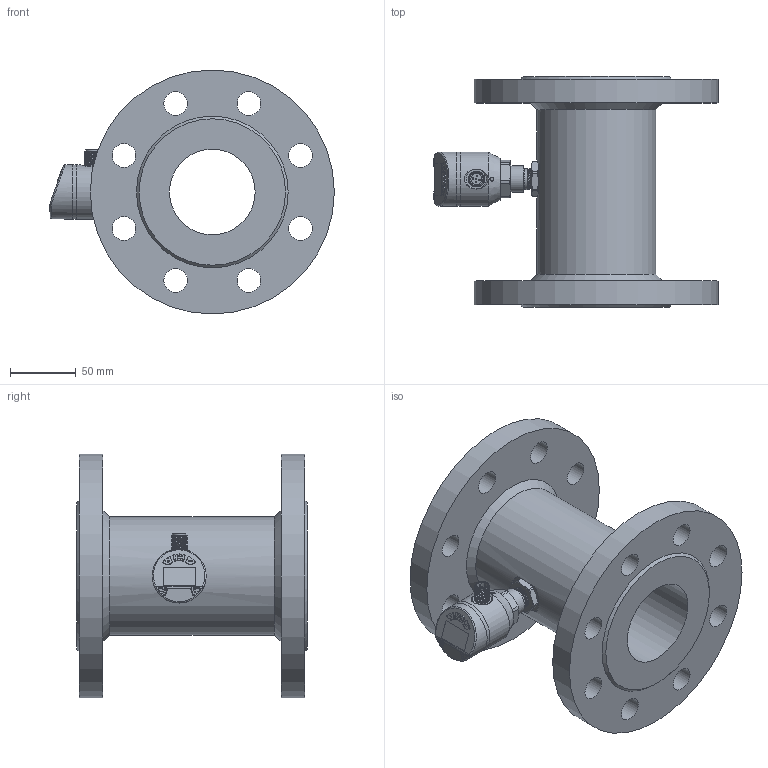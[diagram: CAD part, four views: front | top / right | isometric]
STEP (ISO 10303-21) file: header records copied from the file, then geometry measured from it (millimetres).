
FILE_DESCRIPTION( (''), '2;1');
FILE_NAME( 'QTKA_DN65_flange.step', '2024-08-14T10:03:59+08:00', (''), (''), '', '', '');
FILE_SCHEMA (('AUTOMOTIVE_DESIGN { 1 0 10303 214 3 1 1 1 }'));
Length unit declared in the file: millimetre
Products named in the file (1): QTKA DN65_flange
Bounding box: 215.8 x 175 x 185 mm (x, y, z)
Volume: 1270114 mm3; surface area: 215839.7 mm2
Topology: 6 solids, 7 shells, 447 faces, 1098 edges, 702 vertices
Faces by surface type: cylinder 157, plane 151, cone 50, bspline 44, torus 39, sphere 6
Full cylindrical faces by diameter (mm): 1 x5, 2.7 x4, 8.4 x1, 9.7 x1, 9.8 x1, 10.1 x1, 11.6 x1, 12 x1, 15.9 x1, 16.5 x1, 18 x16, 20 x1, 23 x3, 26 x4, 26.1 x1, 37 x1, 41 x3, 65 x1, 90 x1, 185 x2
Entity records: 29866 total; most frequent: CARTESIAN_POINT 18536, DIRECTION 1994, ORIENTED_EDGE 1942, EDGE_CURVE 971, AXIS2_PLACEMENT_3D 809, VERTEX_POINT 650, EDGE_LOOP 597, ADVANCED_FACE 445
